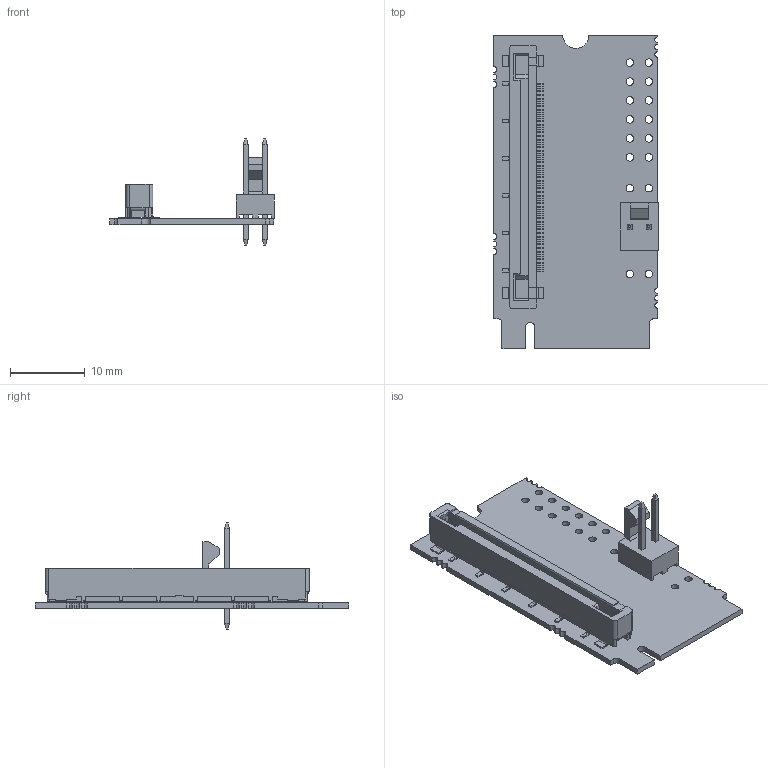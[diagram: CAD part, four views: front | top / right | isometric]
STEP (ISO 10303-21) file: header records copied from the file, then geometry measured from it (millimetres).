
FILE_DESCRIPTION(/* description */ ('step model'),/* implementation_level */ '2;1');
FILE_NAME(/* name */ 'ADPT-MX-X4G2-M2-FV.stp',/* time_stamp */ '2017-09-04T14:36:51+02:00',/* author */ ('Spano'),/* organization */ ('Ximea'),/* preprocessor_version */ 'ST-DEVELOPER v16',/* originating_system */ 'SIEMENS PLM Software NX 11.0',/* authorisation */ '');
FILE_SCHEMA (('AUTOMOTIVE_DESIGN { 1 0 10303 214 3 1 1 1 }'));
Length unit declared in the file: millimetre
Products named in the file (1): ADPT-MX-X4G2-M2-FV
Bounding box: 22.04 x 42 x 14.22 mm (x, y, z)
Volume: 1269.3 mm3; surface area: 3062.9 mm2
Topology: 5 solids, 5 shells, 971 faces, 2706 edges, 1794 vertices
Faces by surface type: plane 659, cylinder 312
Full cylindrical faces by diameter (mm): 1 x18
Entity records: 31267 total; most frequent: CARTESIAN_POINT 5592, ORIENTED_EDGE 5412, DIRECTION 5262, EDGE_CURVE 2706, LINE 2054, VECTOR 2054, VERTEX_POINT 1794, AXIS2_PLACEMENT_3D 1604
